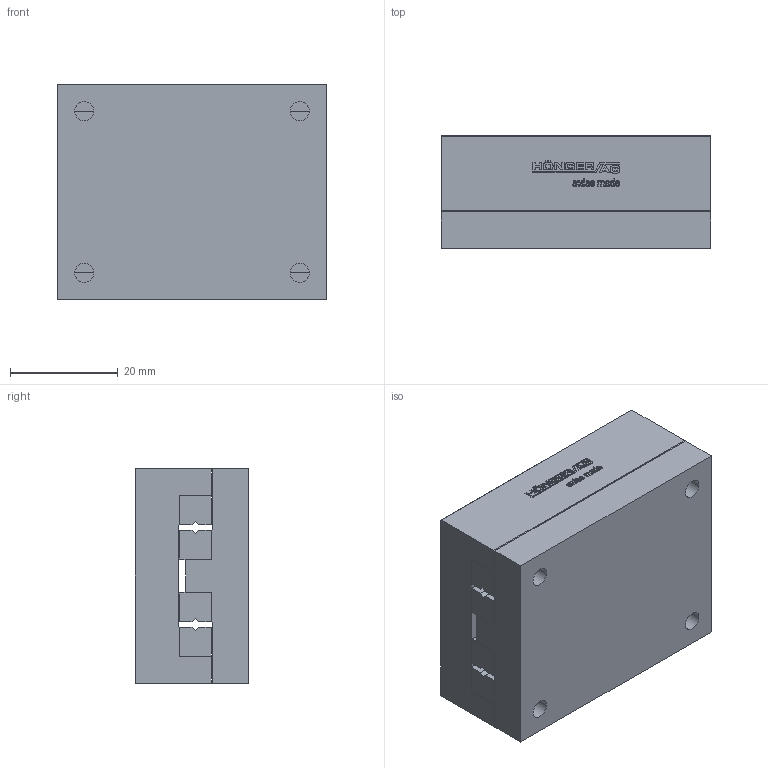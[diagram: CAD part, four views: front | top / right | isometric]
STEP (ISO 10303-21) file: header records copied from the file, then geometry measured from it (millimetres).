
FILE_DESCRIPTION(/* description */ ('STEP AP214'),/* implementation_level */ '2;1');
FILE_NAME(/* name */ 'NK 2-50-B(0)',/* time_stamp */ '2025-04-22T17:47:54+02:00',/* author */ ('License CC BY-ND 4.0'),/* organization */ ('CADENAS'),/* preprocessor_version */ 'ST-DEVELOPER v19.3',/* originating_system */ 'PARTsolutions',/* authorisation */ ' ');
FILE_SCHEMA (('AUTOMOTIVE_DESIGN {1 0 10303 214 3 1 1}'));
Length unit declared in the file: millimetre
Products named in the file (3): NK 2-50-B(0); NK 2-50-B_1; NK 2-50-B_2
Assembly tree (2 placements, depth 2):
  NK 2-50-B(0)
    NK 2-50-B_1
    NK 2-50-B_2
Bounding box: 50 x 21 x 40 mm (x, y, z)
Volume: 40020.5 mm3; surface area: 15936.8 mm2
Topology: 2 solids, 2 shells, 573 faces, 1598 edges, 1060 vertices
Faces by surface type: cylinder 304, plane 261, cone 8
Full cylindrical faces by diameter (mm): 2.459 x4, 3.5 x4, 6 x4
Entity records: 18587 total; most frequent: DIRECTION 3346, CARTESIAN_POINT 3214, ORIENTED_EDGE 3156, EDGE_CURVE 1578, AXIS2_PLACEMENT_3D 1192, VERTEX_POINT 1060, LINE 962, VECTOR 962
